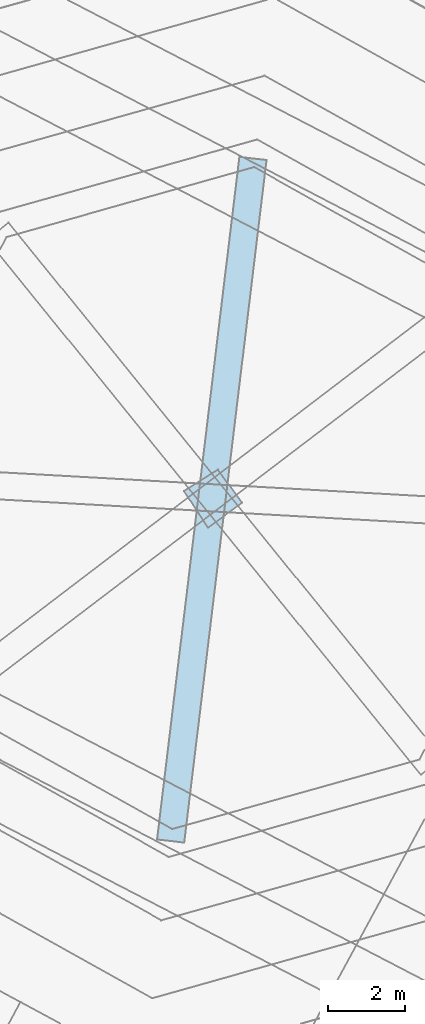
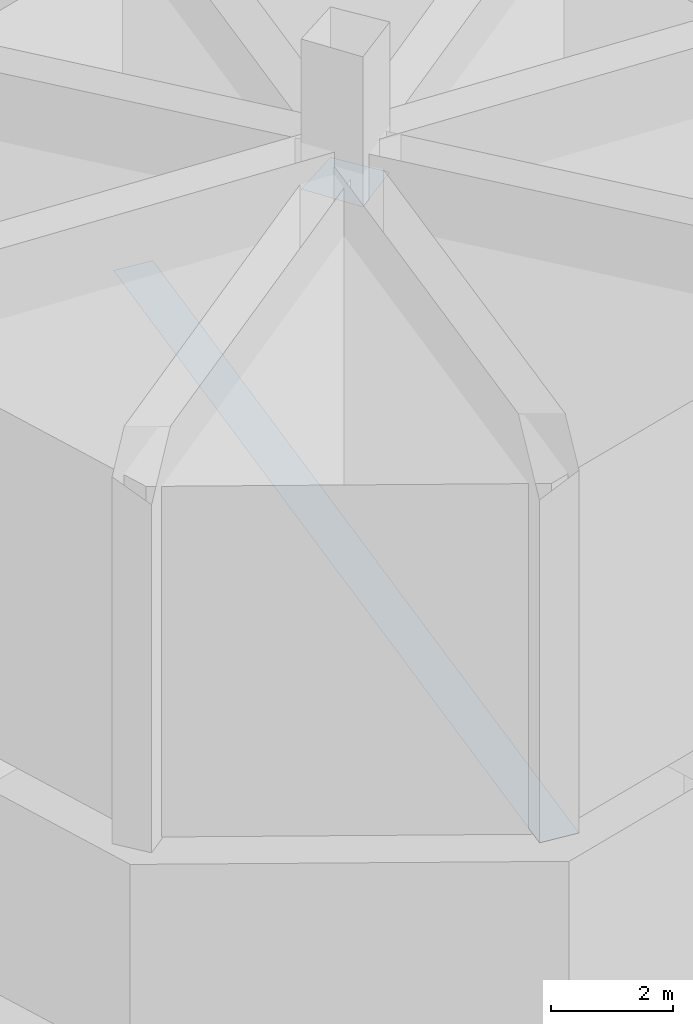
# Not in any storey, part 9 of 80: 2 footings.
"""IFC4 building model written with IfcOpenShell, lengths in metres."""

from ifc_helpers import new_model, si_unit, frame, origin_with_axes, place, context, subcontext, project, spatial, polygons, element, save


model = new_model("IFC4")

# Units and contexts
model_context = context("Model", 3, precision=1e-05, world=origin_with_axes())
body_context = subcontext(model_context, "Body", "Model", "MODEL_VIEW")
ifc_project = project(units=[si_unit("AREAUNIT", "SQUARE_METRE"), si_unit("LENGTHUNIT", "METRE")], contexts=[model_context])

# Sites, building
site_1_placement = place(None, origin_with_axes())
site_1 = spatial("IfcSite", under=ifc_project, at=site_1_placement, Name="Topoexport Site")
site_2_placement = place(site_1_placement, origin_with_axes())
site_2 = spatial("IfcSite", under=site_1, at=site_2_placement, Name="TPX_BATIMENTS")
building_1_placement = place(site_2_placement, frame((205.5562085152, 290.3465658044, 267.1773750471), z_axis=(0.0, 0.0, 1.0), x_axis=(1.0, 0.0, 0.0)))
building_1 = spatial("IfcBuilding", under=site_2, at=building_1_placement, Name="Batiment 116", CompositionType="ELEMENT")

# Footing
footing_1_placement = place(None, frame((205.5562085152, 290.3465658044, 267.1773750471), z_axis=(0.0, 0.0, 1.0), x_axis=(1.0, 0.0, 0.0)))
element("IfcFooting", 1, at=footing_1_placement, inside=building_1, Name="Sol 0", context=body_context, shape_type="Tessellation", body=[
    polygons([(0.0, 0.0, 0.0), (0.6187999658, -0.947598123, 0.0), (1.4976682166, -0.304548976, 0.0), (0.87146067, 0.5541448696, 0.0)], [[[2, 1, 4]], [[4, 3, 2]]]),
])

# Building
building_2_placement = place(site_2_placement, frame((204.8589467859, 281.3456288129, 259.8320280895), z_axis=(0.0, 0.0, 1.0), x_axis=(1.0, 0.0, 0.0)))
building_2 = spatial("IfcBuilding", under=site_2, at=building_2_placement, Name="Batiment 117", CompositionType="ELEMENT")

# Footing
footing_2_placement = place(None, frame((204.8589467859, 281.3456288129, 259.8320280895), z_axis=(0.0, 0.0, 1.0), x_axis=(1.0, 0.0, 0.0)))
element("IfcFooting", 2, at=footing_2_placement, inside=building_2, Name="Sol 0", context=body_context, shape_type="Tessellation", body=[
    polygons([(0.0, 0.0, 0.0), (0.7015744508, -0.0806595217, 0.0), (2.8264731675, 17.5411295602, 0.0), (2.1249003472, 17.6217888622, 0.0)], [[[2, 1, 4]], [[4, 3, 2]]]),
])

save(model, "model.ifc")
